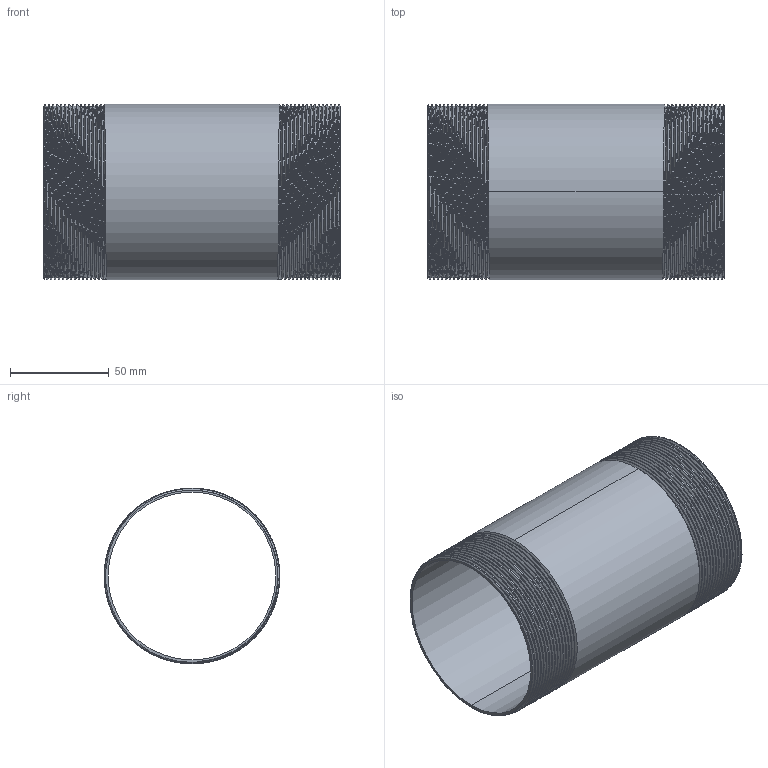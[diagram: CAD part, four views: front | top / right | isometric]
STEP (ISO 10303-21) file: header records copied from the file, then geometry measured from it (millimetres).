
FILE_DESCRIPTION (( 'STEP AP203' ), '1' );
FILE_NAME ('3D_R210_3x150_17148680.STEP', '2024-08-16T10:25:18', ( '' ), ( '' ), 'SwSTEP 2.0', 'SolidWorks 2024', '' );
FILE_SCHEMA (( 'CONFIG_CONTROL_DESIGN' ));
Length unit declared in the file: millimetre
Products named in the file (1): 3D_R210_3x150_17148680
Bounding box: 150 x 88.85 x 88.9 mm (x, y, z)
Volume: 71246 mm3; surface area: 92095.3 mm2
Topology: 1 solids, 1 shells, 80 faces, 228 edges, 150 vertices
Faces by surface type: cone 66, bspline 6, cylinder 4, plane 4
Entity records: 16579 total; most frequent: CARTESIAN_POINT 14717, ORIENTED_EDGE 456, DIRECTION 248, EDGE_CURVE 228, VERTEX_POINT 150, B_SPLINE_CURVE_WITH_KNOTS 134, AXIS2_PLACEMENT_3D 87, EDGE_LOOP 82
